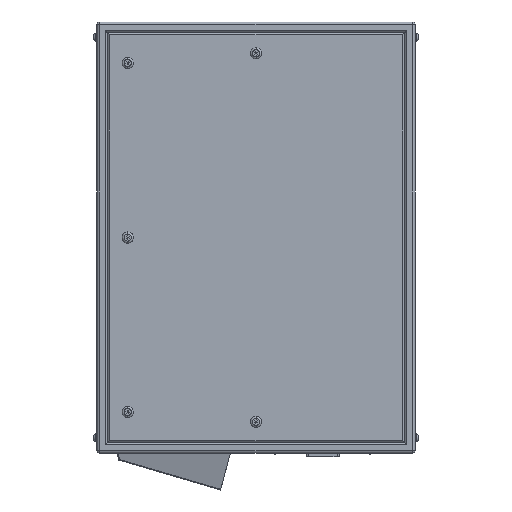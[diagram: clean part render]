
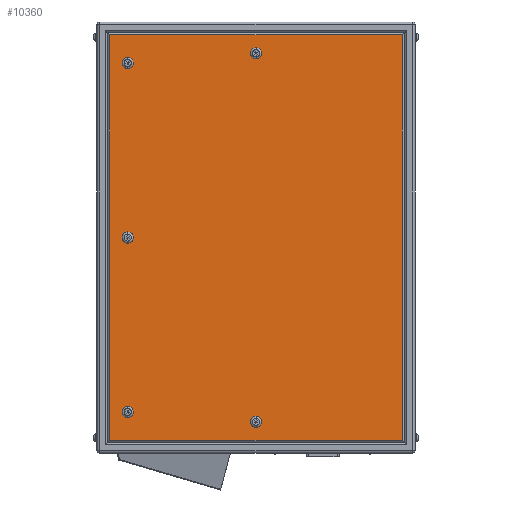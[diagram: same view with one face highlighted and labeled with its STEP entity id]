
A CAD part, left-side view. The second image highlights one B-rep face of the part: STEP entity #10360.
In plain terms, the highlighted planar face has unit normal (-1, 0, 0).
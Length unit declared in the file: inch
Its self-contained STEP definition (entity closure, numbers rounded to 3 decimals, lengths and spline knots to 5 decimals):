
#185 = CIRCLE ( 'NONE', #1187, 0.55 ) ;
#541 = EDGE_CURVE ( 'NONE', #8877, #2572, #18534, .T. ) ;
#712 = DIRECTION ( 'NONE',  ( 0., 0., -1. ) ) ;
#881 = CARTESIAN_POINT ( 'NONE',  ( -9.5, -14.24, -19.74 ) ) ;
#1187 = AXIS2_PLACEMENT_3D ( 'NONE', #21889, #15160, #10145 ) ;
#1545 = LINE ( 'NONE', #3569, #10913 ) ;
#1720 = DIRECTION ( 'NONE',  ( 0., 1., 0. ) ) ;
#1798 = EDGE_CURVE ( 'NONE', #20001, #17290, #6091, .T. ) ;
#1899 = DIRECTION ( 'NONE',  ( 0., 0., -1. ) ) ;
#1954 = CARTESIAN_POINT ( 'NONE',  ( -9.5, 12.5, -17. ) ) ;
#1973 = DIRECTION ( 'NONE',  ( 1., 0., 0. ) ) ;
#2225 = DIRECTION ( 'NONE',  ( 0., 0., -1. ) ) ;
#2572 = VERTEX_POINT ( 'NONE', #13210 ) ;
#2867 = CARTESIAN_POINT ( 'NONE',  ( -9.5, 12.5, 17. ) ) ;
#3047 = CARTESIAN_POINT ( 'NONE',  ( -9.5, 0., -17.95 ) ) ;
#3348 = AXIS2_PLACEMENT_3D ( 'NONE', #18073, #9840, #16498 ) ;
#3420 = CIRCLE ( 'NONE', #18811, 0.55 ) ;
#3451 = FACE_BOUND ( 'NONE', #18501, .T. ) ;
#3499 = CIRCLE ( 'NONE', #13365, 0.55 ) ;
#3569 = CARTESIAN_POINT ( 'NONE',  ( -9.5, 15.5, 19.74 ) ) ;
#3853 = VERTEX_POINT ( 'NONE', #20197 ) ;
#4056 = CIRCLE ( 'NONE', #8533, 0.55 ) ;
#4180 = EDGE_CURVE ( 'NONE', #9304, #5472, #3499, .T. ) ;
#4646 = CARTESIAN_POINT ( 'NONE',  ( -9.5, 12.5, 16.45 ) ) ;
#4791 = ORIENTED_EDGE ( 'NONE', *, *, #16712, .T. ) ;
#4867 = DIRECTION ( 'NONE',  ( 0., 0., -1. ) ) ;
#4875 = EDGE_LOOP ( 'NONE', ( #14782, #10057 ) ) ;
#5439 = CARTESIAN_POINT ( 'NONE',  ( -9.5, 0., 17.95 ) ) ;
#5472 = VERTEX_POINT ( 'NONE', #15153 ) ;
#5673 = AXIS2_PLACEMENT_3D ( 'NONE', #1954, #11951, #8672 ) ;
#5676 = VERTEX_POINT ( 'NONE', #15712 ) ;
#5833 = EDGE_LOOP ( 'NONE', ( #10591, #11717 ) ) ;
#5891 = VERTEX_POINT ( 'NONE', #18190 ) ;
#5897 = FACE_BOUND ( 'NONE', #8384, .T. ) ;
#6091 = LINE ( 'NONE', #17067, #20426 ) ;
#6276 = EDGE_LOOP ( 'NONE', ( #8239, #21818, #21381, #7673 ) ) ;
#6281 = LINE ( 'NONE', #21112, #10268 ) ;
#6429 = ORIENTED_EDGE ( 'NONE', *, *, #14875, .F. ) ;
#6712 = FACE_BOUND ( 'NONE', #14991, .T. ) ;
#7084 = CARTESIAN_POINT ( 'NONE',  ( -9.5, 12.5, 0. ) ) ;
#7547 = DIRECTION ( 'NONE',  ( 0., -1., 0. ) ) ;
#7582 = DIRECTION ( 'NONE',  ( 1., 0., 0. ) ) ;
#7642 = CARTESIAN_POINT ( 'NONE',  ( -9.5, 14.24, 19.74 ) ) ;
#7673 = ORIENTED_EDGE ( 'NONE', *, *, #13678, .T. ) ;
#7938 = DIRECTION ( 'NONE',  ( 1., 0., 0. ) ) ;
#8239 = ORIENTED_EDGE ( 'NONE', *, *, #13884, .T. ) ;
#8384 = EDGE_LOOP ( 'NONE', ( #21276, #6429 ) ) ;
#8437 = EDGE_CURVE ( 'NONE', #2572, #8877, #185, .T. ) ;
#8533 = AXIS2_PLACEMENT_3D ( 'NONE', #15849, #7582, #10983 ) ;
#8672 = DIRECTION ( 'NONE',  ( 0., 0., -1. ) ) ;
#8837 = DIRECTION ( 'NONE',  ( 1., 0., 0. ) ) ;
#8877 = VERTEX_POINT ( 'NONE', #9760 ) ;
#8895 = EDGE_CURVE ( 'NONE', #15454, #18138, #18399, .T. ) ;
#8944 = DIRECTION ( 'NONE',  ( 1., 0., 0. ) ) ;
#9304 = VERTEX_POINT ( 'NONE', #14974 ) ;
#9544 = EDGE_CURVE ( 'NONE', #10361, #5676, #9692, .T. ) ;
#9605 = DIRECTION ( 'NONE',  ( 0., 0., -1. ) ) ;
#9692 = CIRCLE ( 'NONE', #17775, 0.55 ) ;
#9698 = EDGE_CURVE ( 'NONE', #5891, #13116, #4056, .T. ) ;
#9760 = CARTESIAN_POINT ( 'NONE',  ( -9.5, 12.5, -0.55 ) ) ;
#9840 = DIRECTION ( 'NONE',  ( 1., 0., 0. ) ) ;
#9886 = CARTESIAN_POINT ( 'NONE',  ( -9.5, 12.5, -17. ) ) ;
#10057 = ORIENTED_EDGE ( 'NONE', *, *, #8437, .T. ) ;
#10145 = DIRECTION ( 'NONE',  ( 0., 0., -1. ) ) ;
#10268 = VECTOR ( 'NONE', #7547, 39.37008 ) ;
#10360 = ADVANCED_FACE ( 'NONE', ( #6712, #3451, #19724, #5897, #19469, #10693 ), #15672, .F. ) ;
#10361 = VERTEX_POINT ( 'NONE', #12425 ) ;
#10395 = CARTESIAN_POINT ( 'NONE',  ( -9.5, 0., -17.95 ) ) ;
#10567 = AXIS2_PLACEMENT_3D ( 'NONE', #5439, #17328, #2225 ) ;
#10591 = ORIENTED_EDGE ( 'NONE', *, *, #15333, .T. ) ;
#10693 = FACE_OUTER_BOUND ( 'NONE', #6276, .T. ) ;
#10913 = VECTOR ( 'NONE', #1720, 39.37008 ) ;
#10983 = DIRECTION ( 'NONE',  ( 0., 0., -1. ) ) ;
#11459 = CARTESIAN_POINT ( 'NONE',  ( -9.5, 0., 18.5 ) ) ;
#11717 = ORIENTED_EDGE ( 'NONE', *, *, #9698, .T. ) ;
#11951 = DIRECTION ( 'NONE',  ( -1., 0., 0. ) ) ;
#12425 = CARTESIAN_POINT ( 'NONE',  ( -9.5, 0., -18.5 ) ) ;
#12915 = CIRCLE ( 'NONE', #10567, 0.55 ) ;
#13116 = VERTEX_POINT ( 'NONE', #4646 ) ;
#13188 = LINE ( 'NONE', #20310, #16384 ) ;
#13210 = CARTESIAN_POINT ( 'NONE',  ( -9.5, 12.5, 0.55 ) ) ;
#13278 = DIRECTION ( 'NONE',  ( -1., 0., 0. ) ) ;
#13365 = AXIS2_PLACEMENT_3D ( 'NONE', #9886, #13278, #4867 ) ;
#13522 = EDGE_CURVE ( 'NONE', #5676, #10361, #20132, .T. ) ;
#13678 = EDGE_CURVE ( 'NONE', #15110, #3853, #13188, .T. ) ;
#13884 = EDGE_CURVE ( 'NONE', #3853, #20001, #6281, .T. ) ;
#14782 = ORIENTED_EDGE ( 'NONE', *, *, #541, .T. ) ;
#14805 = DIRECTION ( 'NONE',  ( 0., 0., 1. ) ) ;
#14875 = EDGE_CURVE ( 'NONE', #5472, #9304, #21061, .T. ) ;
#14974 = CARTESIAN_POINT ( 'NONE',  ( -9.5, 12.5, -17.55 ) ) ;
#14991 = EDGE_LOOP ( 'NONE', ( #17973, #18456 ) ) ;
#15110 = VERTEX_POINT ( 'NONE', #7642 ) ;
#15117 = DIRECTION ( 'NONE',  ( 0., 0., 1. ) ) ;
#15153 = CARTESIAN_POINT ( 'NONE',  ( -9.5, 12.5, -16.45 ) ) ;
#15157 = DIRECTION ( 'NONE',  ( 0., 0., -1. ) ) ;
#15160 = DIRECTION ( 'NONE',  ( 1., 0., 0. ) ) ;
#15333 = EDGE_CURVE ( 'NONE', #13116, #5891, #3420, .T. ) ;
#15454 = VERTEX_POINT ( 'NONE', #11459 ) ;
#15672 = PLANE ( 'NONE',  #16782 ) ;
#15712 = CARTESIAN_POINT ( 'NONE',  ( -9.5, 0., -17.4 ) ) ;
#15849 = CARTESIAN_POINT ( 'NONE',  ( -9.5, 12.5, 17. ) ) ;
#15930 = CARTESIAN_POINT ( 'NONE',  ( -9.5, 0., 17.4 ) ) ;
#15966 = CARTESIAN_POINT ( 'NONE',  ( -9.5, 15.5, -21. ) ) ;
#16384 = VECTOR ( 'NONE', #15157, 39.37008 ) ;
#16438 = AXIS2_PLACEMENT_3D ( 'NONE', #3047, #7938, #14805 ) ;
#16498 = DIRECTION ( 'NONE',  ( 0., 0., -1. ) ) ;
#16712 = EDGE_CURVE ( 'NONE', #18138, #15454, #12915, .T. ) ;
#16782 = AXIS2_PLACEMENT_3D ( 'NONE', #15966, #8944, #712 ) ;
#17067 = CARTESIAN_POINT ( 'NONE',  ( -9.5, -14.24, -21. ) ) ;
#17290 = VERTEX_POINT ( 'NONE', #19171 ) ;
#17328 = DIRECTION ( 'NONE',  ( 1., 0., 0. ) ) ;
#17775 = AXIS2_PLACEMENT_3D ( 'NONE', #10395, #8837, #20714 ) ;
#17973 = ORIENTED_EDGE ( 'NONE', *, *, #9544, .T. ) ;
#18073 = CARTESIAN_POINT ( 'NONE',  ( -9.5, 0., 17.95 ) ) ;
#18138 = VERTEX_POINT ( 'NONE', #15930 ) ;
#18190 = CARTESIAN_POINT ( 'NONE',  ( -9.5, 12.5, 17.55 ) ) ;
#18363 = DIRECTION ( 'NONE',  ( 1., 0., 0. ) ) ;
#18399 = CIRCLE ( 'NONE', #3348, 0.55 ) ;
#18456 = ORIENTED_EDGE ( 'NONE', *, *, #13522, .T. ) ;
#18501 = EDGE_LOOP ( 'NONE', ( #4791, #19467 ) ) ;
#18534 = CIRCLE ( 'NONE', #20454, 0.55 ) ;
#18811 = AXIS2_PLACEMENT_3D ( 'NONE', #2867, #18363, #9605 ) ;
#19171 = CARTESIAN_POINT ( 'NONE',  ( -9.5, -14.24, 19.74 ) ) ;
#19467 = ORIENTED_EDGE ( 'NONE', *, *, #8895, .T. ) ;
#19469 = FACE_BOUND ( 'NONE', #5833, .T. ) ;
#19724 = FACE_BOUND ( 'NONE', #4875, .T. ) ;
#20001 = VERTEX_POINT ( 'NONE', #881 ) ;
#20132 = CIRCLE ( 'NONE', #16438, 0.55 ) ;
#20197 = CARTESIAN_POINT ( 'NONE',  ( -9.5, 14.24, -19.74 ) ) ;
#20310 = CARTESIAN_POINT ( 'NONE',  ( -9.5, 14.24, -21. ) ) ;
#20426 = VECTOR ( 'NONE', #15117, 39.37008 ) ;
#20454 = AXIS2_PLACEMENT_3D ( 'NONE', #7084, #1973, #1899 ) ;
#20714 = DIRECTION ( 'NONE',  ( 0., 0., 1. ) ) ;
#21061 = CIRCLE ( 'NONE', #5673, 0.55 ) ;
#21112 = CARTESIAN_POINT ( 'NONE',  ( -9.5, 15.5, -19.74 ) ) ;
#21276 = ORIENTED_EDGE ( 'NONE', *, *, #4180, .F. ) ;
#21345 = EDGE_CURVE ( 'NONE', #17290, #15110, #1545, .T. ) ;
#21381 = ORIENTED_EDGE ( 'NONE', *, *, #21345, .T. ) ;
#21818 = ORIENTED_EDGE ( 'NONE', *, *, #1798, .T. ) ;
#21889 = CARTESIAN_POINT ( 'NONE',  ( -9.5, 12.5, 0. ) ) ;
